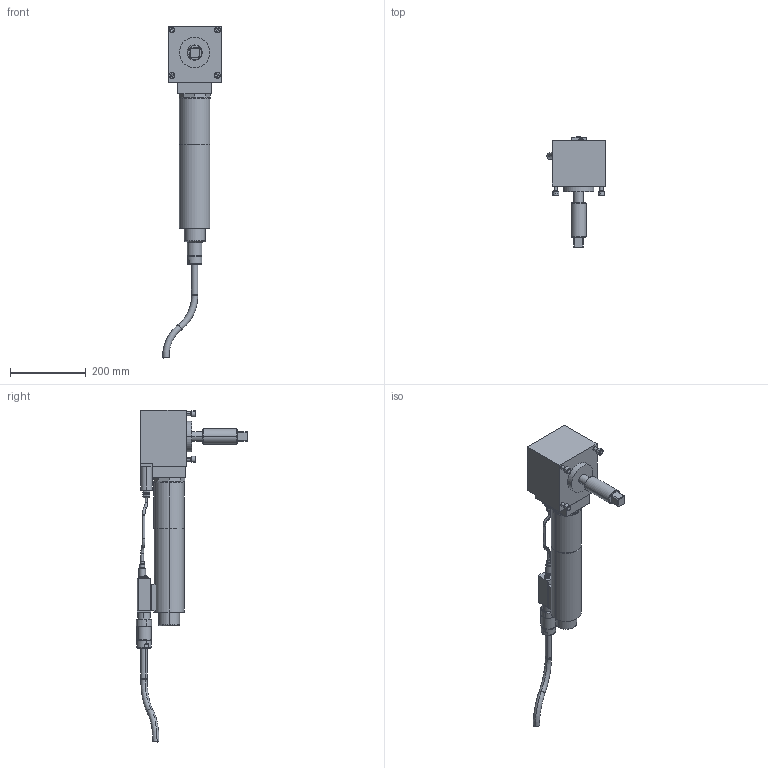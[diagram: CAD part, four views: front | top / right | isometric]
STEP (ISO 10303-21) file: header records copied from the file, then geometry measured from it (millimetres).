
FILE_DESCRIPTION(('CATIA V5 STEP'),'2;1');
FILE_NAME('O:\3D-Schrauber\stp\7920358_ECR334_AWD325-700_AllCATPart.stp','2010-05-05T11:03:39+00:00',('none'),('none'),'CATIA Version 5 Release 19 SP 3 (IN-10)','CATIA V5 STEP AP214','none');
FILE_SCHEMA(('AUTOMOTIVE_DESIGN { 1 0 10303 214 1 1 1 1 }'));
Length unit declared in the file: millimetre
Products named in the file (1): 7920358_ECR334_AWD325-700_AllCATPart
Bounding box: 153.82 x 293.28 x 874.86 mm (x, y, z)
Volume: 5267395.1 mm3; surface area: 348773.7 mm2
Topology: 15 solids, 15 shells, 413 faces, 930 edges, 582 vertices
Faces by surface type: plane 174, cylinder 141, cone 56, torus 42
Entity records: 10900 total; most frequent: CARTESIAN_POINT 2186, ORIENTED_EDGE 1844, DIRECTION 1480, EDGE_CURVE 922, AXIS2_PLACEMENT_3D 740, VERTEX_POINT 582, EDGE_LOOP 456, VECTOR 438
